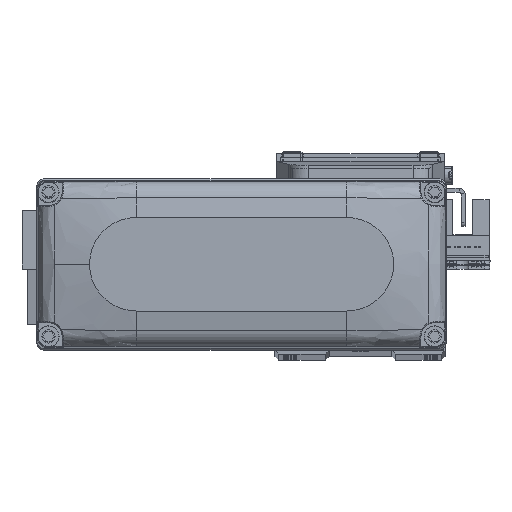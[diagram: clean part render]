
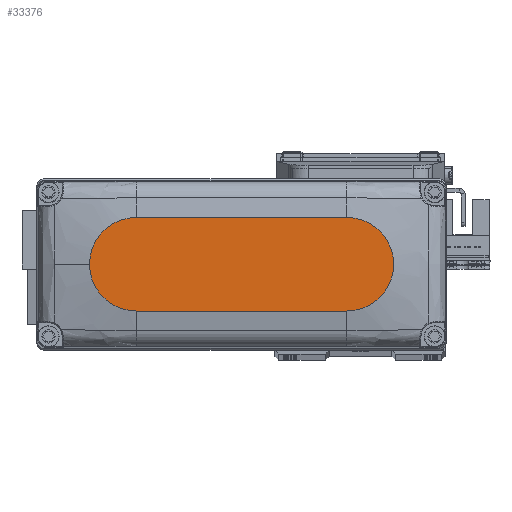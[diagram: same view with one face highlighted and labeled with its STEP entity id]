
A CAD part, top view. The second image highlights one B-rep face of the part: STEP entity #33376.
In plain terms, the highlighted planar face has unit normal (0, 0, 1).
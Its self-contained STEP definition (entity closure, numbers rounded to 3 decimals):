
#1003 = CARTESIAN_POINT ( 'NONE',  ( -27., -12., 25. ) ) ;
#1310 = ORIENTED_EDGE ( 'NONE', *, *, #9178, .T. ) ;
#2137 = DIRECTION ( 'NONE',  ( 0., 0., 1. ) ) ;
#2233 = CIRCLE ( 'NONE', #25064, 12. ) ;
#4728 = CARTESIAN_POINT ( 'NONE',  ( -27., 0., 25. ) ) ;
#4951 = VERTEX_POINT ( 'NONE', #17746 ) ;
#5047 = DIRECTION ( 'NONE',  ( 1., 0., 0. ) ) ;
#6034 = VERTEX_POINT ( 'NONE', #9033 ) ;
#7901 = DIRECTION ( 'NONE',  ( 1., 0., 0. ) ) ;
#8419 = EDGE_LOOP ( 'NONE', ( #1310, #15592, #15490, #27299, #38740 ) ) ;
#9033 = CARTESIAN_POINT ( 'NONE',  ( 39., 0., 25. ) ) ;
#9178 = EDGE_CURVE ( 'NONE', #29476, #4951, #10604, .T. ) ;
#10604 = LINE ( 'NONE', #23071, #33526 ) ;
#10962 = PLANE ( 'NONE',  #31432 ) ;
#13655 = CIRCLE ( 'NONE', #36454, 12. ) ;
#14599 = DIRECTION ( 'NONE',  ( 1., 0., 0. ) ) ;
#14640 = CARTESIAN_POINT ( 'NONE',  ( 27., 0., 25. ) ) ;
#15259 = AXIS2_PLACEMENT_3D ( 'NONE', #30134, #2137, #14599 ) ;
#15490 = ORIENTED_EDGE ( 'NONE', *, *, #29012, .T. ) ;
#15592 = ORIENTED_EDGE ( 'NONE', *, *, #23037, .T. ) ;
#17198 = DIRECTION ( 'NONE',  ( 0., 0., 1. ) ) ;
#17746 = CARTESIAN_POINT ( 'NONE',  ( -27., 12., 25. ) ) ;
#20587 = LINE ( 'NONE', #33022, #33180 ) ;
#20729 = EDGE_CURVE ( 'NONE', #6034, #29476, #13655, .T. ) ;
#23037 = EDGE_CURVE ( 'NONE', #4951, #32878, #2233, .T. ) ;
#23071 = CARTESIAN_POINT ( 'NONE',  ( -27., 12., 25. ) ) ;
#23442 = CARTESIAN_POINT ( 'NONE',  ( 0., 0., 25. ) ) ;
#25064 = AXIS2_PLACEMENT_3D ( 'NONE', #4728, #17198, #29672 ) ;
#27119 = DIRECTION ( 'NONE',  ( 0., 0., 1. ) ) ;
#27299 = ORIENTED_EDGE ( 'NONE', *, *, #38958, .T. ) ;
#29012 = EDGE_CURVE ( 'NONE', #32878, #36742, #20587, .T. ) ;
#29476 = VERTEX_POINT ( 'NONE', #30675 ) ;
#29672 = DIRECTION ( 'NONE',  ( 1., 0., 0. ) ) ;
#30134 = CARTESIAN_POINT ( 'NONE',  ( 27., 0., 25. ) ) ;
#30675 = CARTESIAN_POINT ( 'NONE',  ( 27., 12., 25. ) ) ;
#31432 = AXIS2_PLACEMENT_3D ( 'NONE', #23442, #35844, #7901 ) ;
#32858 = CIRCLE ( 'NONE', #15259, 12. ) ;
#32878 = VERTEX_POINT ( 'NONE', #1003 ) ;
#33022 = CARTESIAN_POINT ( 'NONE',  ( -27., -12., 25. ) ) ;
#33180 = VECTOR ( 'NONE', #5047, 1000. ) ;
#33376 = ADVANCED_FACE ( 'NONE', ( #38866 ), #10962, .T. ) ;
#33526 = VECTOR ( 'NONE', #35493, 1000. ) ;
#33626 = CARTESIAN_POINT ( 'NONE',  ( 27., -12., 25. ) ) ;
#35493 = DIRECTION ( 'NONE',  ( -1., 0., 0. ) ) ;
#35844 = DIRECTION ( 'NONE',  ( 0., 0., 1. ) ) ;
#36454 = AXIS2_PLACEMENT_3D ( 'NONE', #14640, #27119, #39480 ) ;
#36742 = VERTEX_POINT ( 'NONE', #33626 ) ;
#38740 = ORIENTED_EDGE ( 'NONE', *, *, #20729, .T. ) ;
#38866 = FACE_OUTER_BOUND ( 'NONE', #8419, .T. ) ;
#38958 = EDGE_CURVE ( 'NONE', #36742, #6034, #32858, .T. ) ;
#39480 = DIRECTION ( 'NONE',  ( 1., 0., 0. ) ) ;
